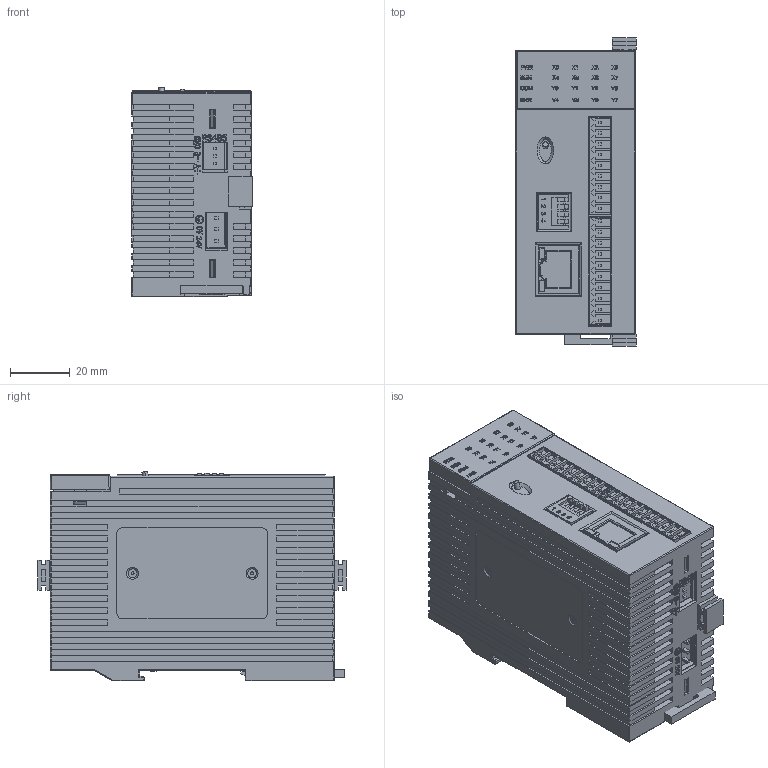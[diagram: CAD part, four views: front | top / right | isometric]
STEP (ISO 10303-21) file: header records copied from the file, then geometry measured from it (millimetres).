
FILE_DESCRIPTION (( 'STEP AP203' ), '1' );
FILE_NAME ('A炵蹈翋儂芞祧.STEP', '2023-05-06T09:40:10', ( 'h''w''s''j''s' ), ( '' ), 'SwSTEP 2.0', 'SolidWorks 2020', '' );
FILE_SCHEMA (( 'CONFIG_CONTROL_DESIGN' ));
Products named in the file (1): A炵蹈翋儂芞祧
Bounding box: 40.4 x 103.11 x 70.23 mm (x, y, z)
Volume: 243845.9 mm3; surface area: 40236.9 mm2
Topology: 3 solids, 17 shells, 2993 faces, 8334 edges, 5493 vertices
Faces by surface type: plane 2135, bspline 586, cylinder 230, torus 16, sphere 14, cone 12
Entity records: 109665 total; most frequent: CARTESIAN_POINT 36521, ORIENTED_EDGE 16648, DIRECTION 12351, EDGE_CURVE 8324, VECTOR 6663, LINE 6663, VERTEX_POINT 5493, EDGE_LOOP 3217
